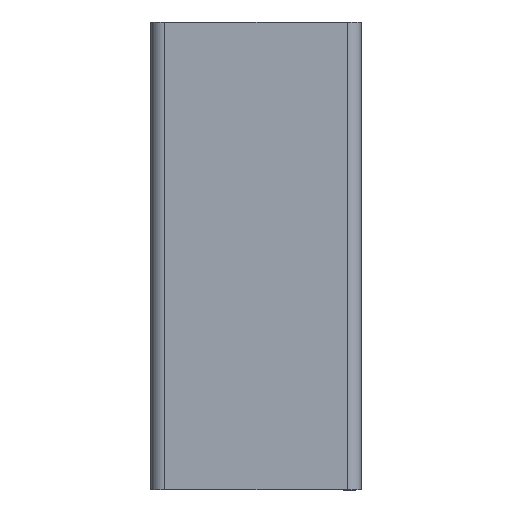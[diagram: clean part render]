
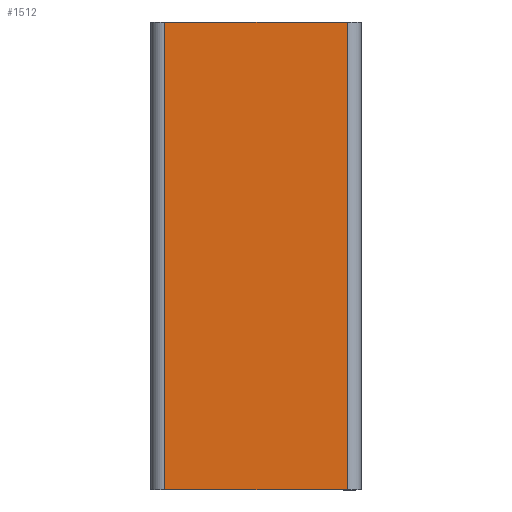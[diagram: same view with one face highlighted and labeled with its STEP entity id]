
A CAD part, left-side view. The second image highlights one B-rep face of the part: STEP entity #1512.
In plain terms, the highlighted planar face has unit normal (-1, 0, 0).
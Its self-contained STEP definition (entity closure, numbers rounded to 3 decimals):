
#129 = EDGE_CURVE ( 'NONE', #145, #326, #1090, .T. ) ;
#132 = EDGE_CURVE ( 'NONE', #362, #167, #1078, .T. ) ;
#145 = VERTEX_POINT ( 'NONE', #181 ) ;
#167 = VERTEX_POINT ( 'NONE', #370 ) ;
#177 = CARTESIAN_POINT ( 'NONE',  ( -30., 8., -100. ) ) ;
#181 = CARTESIAN_POINT ( 'NONE',  ( -30., 8., 0. ) ) ;
#221 = CARTESIAN_POINT ( 'NONE',  ( -30., -31., 0. ) ) ;
#238 = DIRECTION ( 'NONE',  ( 0., -1., 0. ) ) ;
#289 = CARTESIAN_POINT ( 'NONE',  ( -30., 8., 0. ) ) ;
#326 = VERTEX_POINT ( 'NONE', #221 ) ;
#359 = DIRECTION ( 'NONE',  ( 0., -1., 0. ) ) ;
#362 = VERTEX_POINT ( 'NONE', #536 ) ;
#370 = CARTESIAN_POINT ( 'NONE',  ( -30., -31., -100. ) ) ;
#428 = CARTESIAN_POINT ( 'NONE',  ( -30., 8., -100. ) ) ;
#531 = CARTESIAN_POINT ( 'NONE',  ( -30., -31., -100. ) ) ;
#536 = CARTESIAN_POINT ( 'NONE',  ( -30., 8., -100. ) ) ;
#621 = DIRECTION ( 'NONE',  ( 0., 0., 1. ) ) ;
#735 = ORIENTED_EDGE ( 'NONE', *, *, #1441, .F. ) ;
#855 = ORIENTED_EDGE ( 'NONE', *, *, #1288, .T. ) ;
#881 = ORIENTED_EDGE ( 'NONE', *, *, #132, .T. ) ;
#884 = ORIENTED_EDGE ( 'NONE', *, *, #129, .F. ) ;
#891 = EDGE_LOOP ( 'NONE', ( #884, #735, #881, #855 ) ) ;
#1075 = VECTOR ( 'NONE', #359, 1000. ) ;
#1078 = LINE ( 'NONE', #428, #1075 ) ;
#1085 = VECTOR ( 'NONE', #238, 1000. ) ;
#1090 = LINE ( 'NONE', #289, #1085 ) ;
#1278 = LINE ( 'NONE', #531, #1315 ) ;
#1286 = VECTOR ( 'NONE', #2152, 1000. ) ;
#1287 = LINE ( 'NONE', #177, #1286 ) ;
#1288 = EDGE_CURVE ( 'NONE', #167, #326, #1278, .T. ) ;
#1315 = VECTOR ( 'NONE', #621, 1000. ) ;
#1441 = EDGE_CURVE ( 'NONE', #362, #145, #1287, .T. ) ;
#1512 = ADVANCED_FACE ( 'NONE', ( #1560 ), #1816, .T. ) ;
#1560 = FACE_OUTER_BOUND ( 'NONE', #891, .T. ) ;
#1816 = PLANE ( 'NONE',  #2302 ) ;
#1823 = CARTESIAN_POINT ( 'NONE',  ( -30., 8., -100. ) ) ;
#1858 = DIRECTION ( 'NONE',  ( 0., 0., 1. ) ) ;
#1862 = DIRECTION ( 'NONE',  ( -1., 0., 0. ) ) ;
#2152 = DIRECTION ( 'NONE',  ( 0., 0., 1. ) ) ;
#2302 = AXIS2_PLACEMENT_3D ( 'NONE', #1823, #1862, #1858 ) ;
